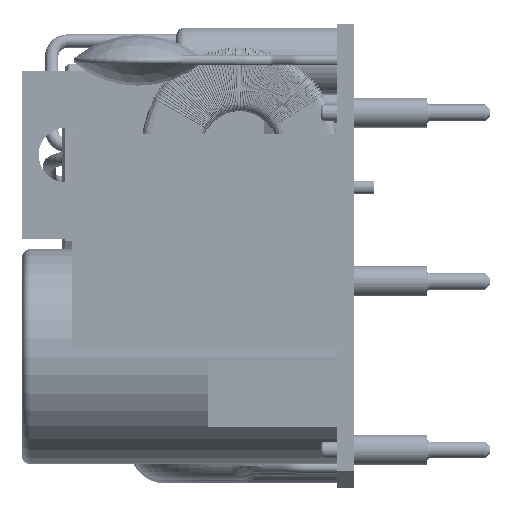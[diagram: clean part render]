
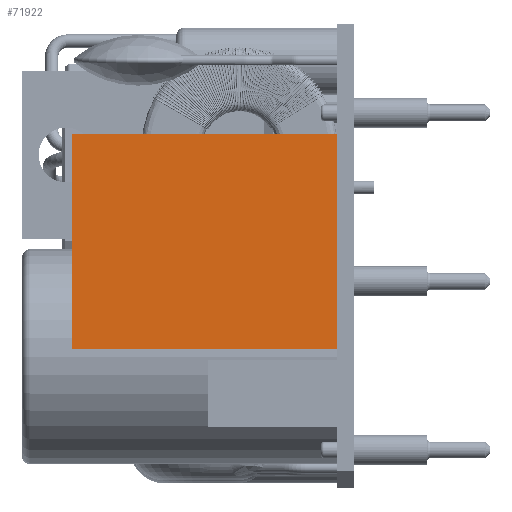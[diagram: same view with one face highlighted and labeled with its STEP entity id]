
A CAD part, left-side view. The second image highlights one B-rep face of the part: STEP entity #71922.
In plain terms, the highlighted planar face has unit normal (-1, 0, 0).
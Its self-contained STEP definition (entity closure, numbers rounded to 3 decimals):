
#806 = LINE ( 'NONE', #112155, #60050 ) ;
#1966 = DIRECTION ( 'NONE',  ( 1., 0., 0. ) ) ;
#4534 = LINE ( 'NONE', #117554, #18209 ) ;
#4722 = CARTESIAN_POINT ( 'NONE',  ( 51.465, 68.8, 16. ) ) ;
#10505 = FACE_OUTER_BOUND ( 'NONE', #90489, .T. ) ;
#11749 = DIRECTION ( 'NONE',  ( 0., 0., -1. ) ) ;
#18209 = VECTOR ( 'NONE', #108619, 1000. ) ;
#19133 = ORIENTED_EDGE ( 'NONE', *, *, #101776, .T. ) ;
#22272 = LINE ( 'NONE', #110851, #73985 ) ;
#22503 = VERTEX_POINT ( 'NONE', #84843 ) ;
#26015 = VECTOR ( 'NONE', #92257, 1000. ) ;
#31134 = CARTESIAN_POINT ( 'NONE',  ( 51.465, 68.8, 16. ) ) ;
#31764 = VERTEX_POINT ( 'NONE', #31134 ) ;
#45447 = AXIS2_PLACEMENT_3D ( 'NONE', #60176, #1966, #11749 ) ;
#54007 = EDGE_CURVE ( 'NONE', #31764, #22503, #22272, .T. ) ;
#60050 = VECTOR ( 'NONE', #83398, 1000. ) ;
#60176 = CARTESIAN_POINT ( 'NONE',  ( 51.465, 68.8, 16. ) ) ;
#63465 = ORIENTED_EDGE ( 'NONE', *, *, #106082, .F. ) ;
#71922 = ADVANCED_FACE ( 'NONE', ( #10505 ), #118325, .F. ) ;
#73985 = VECTOR ( 'NONE', #109630, 1000. ) ;
#74610 = CARTESIAN_POINT ( 'NONE',  ( 51.465, 55.8, 16. ) ) ;
#83398 = DIRECTION ( 'NONE',  ( 0., -1., 0. ) ) ;
#84843 = CARTESIAN_POINT ( 'NONE',  ( 51.465, 68.8, 0. ) ) ;
#90489 = EDGE_LOOP ( 'NONE', ( #19133, #63465, #125557, #103113 ) ) ;
#92257 = DIRECTION ( 'NONE',  ( 0., -1., 0. ) ) ;
#98615 = EDGE_CURVE ( 'NONE', #31764, #101339, #103495, .T. ) ;
#101339 = VERTEX_POINT ( 'NONE', #74610 ) ;
#101776 = EDGE_CURVE ( 'NONE', #22503, #102567, #806, .T. ) ;
#102567 = VERTEX_POINT ( 'NONE', #121137 ) ;
#103113 = ORIENTED_EDGE ( 'NONE', *, *, #54007, .T. ) ;
#103495 = LINE ( 'NONE', #4722, #26015 ) ;
#106082 = EDGE_CURVE ( 'NONE', #101339, #102567, #4534, .T. ) ;
#108619 = DIRECTION ( 'NONE',  ( 0., 0., -1. ) ) ;
#109630 = DIRECTION ( 'NONE',  ( 0., 0., -1. ) ) ;
#110851 = CARTESIAN_POINT ( 'NONE',  ( 51.465, 68.8, 16. ) ) ;
#112155 = CARTESIAN_POINT ( 'NONE',  ( 51.465, 68.8, 0. ) ) ;
#117554 = CARTESIAN_POINT ( 'NONE',  ( 51.465, 55.8, 16. ) ) ;
#118325 = PLANE ( 'NONE',  #45447 ) ;
#121137 = CARTESIAN_POINT ( 'NONE',  ( 51.465, 55.8, 0. ) ) ;
#125557 = ORIENTED_EDGE ( 'NONE', *, *, #98615, .F. ) ;
